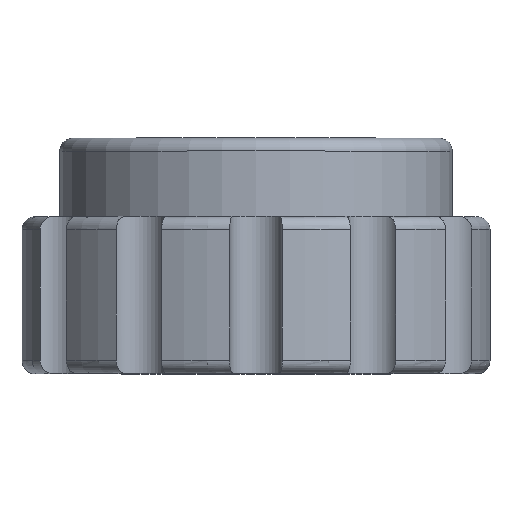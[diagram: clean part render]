
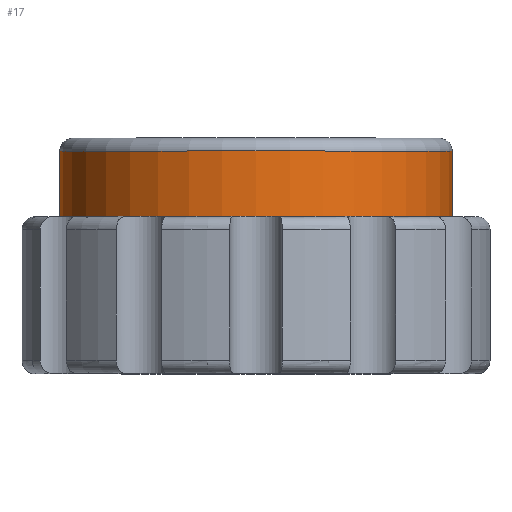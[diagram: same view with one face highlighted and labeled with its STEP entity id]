
A CAD part, top view. The second image highlights one B-rep face of the part: STEP entity #17.
In plain terms, the highlighted cylindrical face has radius 7.5 mm (diameter 15 mm), a full revolution.
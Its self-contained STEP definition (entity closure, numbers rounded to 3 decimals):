
#17 = ADVANCED_FACE('',(#18),#32,.T.);
#18 = FACE_BOUND('',#19,.F.);
#19 = EDGE_LOOP('',(#20,#50,#81,#82));
#20 = ORIENTED_EDGE('',*,*,#21,.T.);
#21 = EDGE_CURVE('',#22,#24,#26,.T.);
#22 = VERTEX_POINT('',#23);
#23 = CARTESIAN_POINT('',(7.5,-6.75,0.));
#24 = VERTEX_POINT('',#25);
#25 = CARTESIAN_POINT('',(7.5,-9.25,0.));
#26 = SEAM_CURVE('',#27,(#31,#43),.PCURVE_S1.);
#27 = LINE('',#28,#29);
#28 = CARTESIAN_POINT('',(7.5,-6.25,0.));
#29 = VECTOR('',#30,1.);
#30 = DIRECTION('',(0.,-1.,0.));
#31 = PCURVE('',#32,#37);
#32 = CYLINDRICAL_SURFACE('',#33,7.5);
#33 = AXIS2_PLACEMENT_3D('',#34,#35,#36);
#34 = CARTESIAN_POINT('',(0.,-6.25,0.));
#35 = DIRECTION('',(0.,1.,0.));
#36 = DIRECTION('',(1.,0.,0.));
#37 = DEFINITIONAL_REPRESENTATION('',(#38),#42);
#38 = LINE('',#39,#40);
#39 = CARTESIAN_POINT('',(-0.,0.));
#40 = VECTOR('',#41,1.);
#41 = DIRECTION('',(-0.,-1.));
#42 = ( GEOMETRIC_REPRESENTATION_CONTEXT(2) 
PARAMETRIC_REPRESENTATION_CONTEXT() REPRESENTATION_CONTEXT('2D SPACE',''
  ) );
#43 = PCURVE('',#32,#44);
#44 = DEFINITIONAL_REPRESENTATION('',(#45),#49);
#45 = LINE('',#46,#47);
#46 = CARTESIAN_POINT('',(-6.283,0.));
#47 = VECTOR('',#48,1.);
#48 = DIRECTION('',(-0.,-1.));
#49 = ( GEOMETRIC_REPRESENTATION_CONTEXT(2) 
PARAMETRIC_REPRESENTATION_CONTEXT() REPRESENTATION_CONTEXT('2D SPACE',''
  ) );
#50 = ORIENTED_EDGE('',*,*,#51,.T.);
#51 = EDGE_CURVE('',#24,#24,#52,.T.);
#52 = SURFACE_CURVE('',#53,(#58,#65),.PCURVE_S1.);
#53 = CIRCLE('',#54,7.5);
#54 = AXIS2_PLACEMENT_3D('',#55,#56,#57);
#55 = CARTESIAN_POINT('',(0.,-9.25,0.));
#56 = DIRECTION('',(0.,-1.,0.));
#57 = DIRECTION('',(1.,0.,0.));
#58 = PCURVE('',#32,#59);
#59 = DEFINITIONAL_REPRESENTATION('',(#60),#64);
#60 = LINE('',#61,#62);
#61 = CARTESIAN_POINT('',(-0.,-3.));
#62 = VECTOR('',#63,1.);
#63 = DIRECTION('',(-1.,0.));
#64 = ( GEOMETRIC_REPRESENTATION_CONTEXT(2) 
PARAMETRIC_REPRESENTATION_CONTEXT() REPRESENTATION_CONTEXT('2D SPACE',''
  ) );
#65 = PCURVE('',#66,#71);
#66 = PLANE('',#67);
#67 = AXIS2_PLACEMENT_3D('',#68,#69,#70);
#68 = CARTESIAN_POINT('',(0.,-9.25,0.)
  );
#69 = DIRECTION('',(0.,1.,0.));
#70 = DIRECTION('',(0.,0.,1.));
#71 = DEFINITIONAL_REPRESENTATION('',(#72),#80);
#72 = ( BOUNDED_CURVE() B_SPLINE_CURVE(2,(#73,#74,#75,#76,#77,#78,#79),
.UNSPECIFIED.,.T.,.F.) B_SPLINE_CURVE_WITH_KNOTS((1,2,2,2,2,1),(
    -2.094,0.,2.094,4.189,6.283,
8.378),.UNSPECIFIED.) CURVE() GEOMETRIC_REPRESENTATION_ITEM() 
RATIONAL_B_SPLINE_CURVE((1.,0.5,1.,0.5,1.,0.5,1.)) REPRESENTATION_ITEM(
  '') );
#73 = CARTESIAN_POINT('',(0.,7.5));
#74 = CARTESIAN_POINT('',(12.99,7.5));
#75 = CARTESIAN_POINT('',(6.495,-3.75));
#76 = CARTESIAN_POINT('',(0.,-15.));
#77 = CARTESIAN_POINT('',(-6.495,-3.75));
#78 = CARTESIAN_POINT('',(-12.99,7.5));
#79 = CARTESIAN_POINT('',(0.,7.5));
#80 = ( GEOMETRIC_REPRESENTATION_CONTEXT(2) 
PARAMETRIC_REPRESENTATION_CONTEXT() REPRESENTATION_CONTEXT('2D SPACE',''
  ) );
#81 = ORIENTED_EDGE('',*,*,#21,.F.);
#82 = ORIENTED_EDGE('',*,*,#83,.F.);
#83 = EDGE_CURVE('',#22,#22,#84,.T.);
#84 = SURFACE_CURVE('',#85,(#90,#97),.PCURVE_S1.);
#85 = CIRCLE('',#86,7.5);
#86 = AXIS2_PLACEMENT_3D('',#87,#88,#89);
#87 = CARTESIAN_POINT('',(0.,-6.75,0.));
#88 = DIRECTION('',(0.,-1.,0.));
#89 = DIRECTION('',(1.,0.,0.));
#90 = PCURVE('',#32,#91);
#91 = DEFINITIONAL_REPRESENTATION('',(#92),#96);
#92 = LINE('',#93,#94);
#93 = CARTESIAN_POINT('',(0.,-0.5));
#94 = VECTOR('',#95,1.);
#95 = DIRECTION('',(-1.,0.));
#96 = ( GEOMETRIC_REPRESENTATION_CONTEXT(2) 
PARAMETRIC_REPRESENTATION_CONTEXT() REPRESENTATION_CONTEXT('2D SPACE',''
  ) );
#97 = PCURVE('',#98,#103);
#98 = TOROIDAL_SURFACE('',#99,7.,0.5);
#99 = AXIS2_PLACEMENT_3D('',#100,#101,#102);
#100 = CARTESIAN_POINT('',(0.,-6.75,0.));
#101 = DIRECTION('',(0.,1.,0.));
#102 = DIRECTION('',(1.,0.,0.));
#103 = DEFINITIONAL_REPRESENTATION('',(#104),#108);
#104 = LINE('',#105,#106);
#105 = CARTESIAN_POINT('',(-0.,0.));
#106 = VECTOR('',#107,1.);
#107 = DIRECTION('',(-1.,0.));
#108 = ( GEOMETRIC_REPRESENTATION_CONTEXT(2) 
PARAMETRIC_REPRESENTATION_CONTEXT() REPRESENTATION_CONTEXT('2D SPACE',''
  ) );
